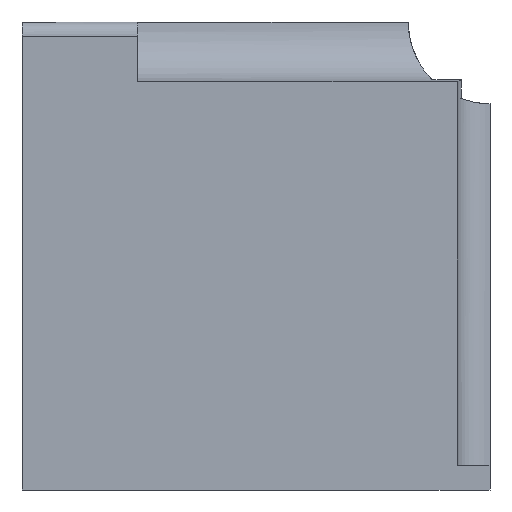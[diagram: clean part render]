
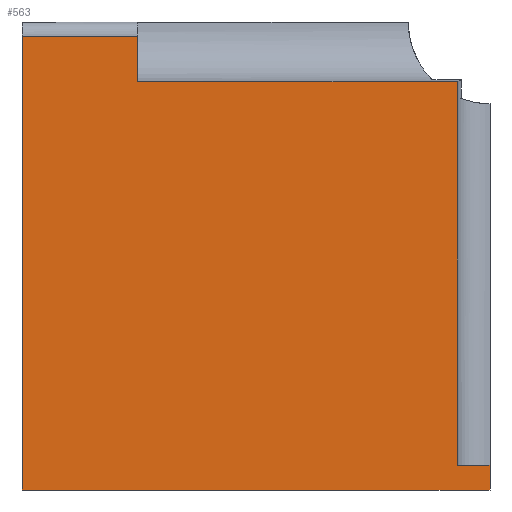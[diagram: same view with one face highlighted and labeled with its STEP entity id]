
A CAD part, front view. The second image highlights one B-rep face of the part: STEP entity #563.
In plain terms, the highlighted planar face has unit normal (0, -1, 0).
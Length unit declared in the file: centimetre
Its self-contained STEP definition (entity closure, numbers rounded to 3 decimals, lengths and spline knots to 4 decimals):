
#2 = CARTESIAN_POINT ( 'NONE',  ( 0., 0., 969.5138 ) ) ;
#4 = VECTOR ( 'NONE', #511, 100. ) ;
#17 = FACE_OUTER_BOUND ( 'NONE', #622, .T. ) ;
#65 = VERTEX_POINT ( 'NONE', #936 ) ;
#83 = LINE ( 'NONE', #675, #712 ) ;
#93 = LINE ( 'NONE', #441, #376 ) ;
#100 = LINE ( 'NONE', #246, #459 ) ;
#156 = ORIENTED_EDGE ( 'NONE', *, *, #298, .T. ) ;
#242 = DIRECTION ( 'NONE',  ( 0., 0., -1. ) ) ;
#246 = CARTESIAN_POINT ( 'NONE',  ( 0., 0., 0. ) ) ;
#260 = EDGE_CURVE ( 'NONE', #767, #403, #292, .T. ) ;
#269 = DIRECTION ( 'NONE',  ( 0., 0., 1. ) ) ;
#292 = LINE ( 'NONE', #628, #525 ) ;
#298 = EDGE_CURVE ( 'NONE', #888, #987, #753, .T. ) ;
#300 = CARTESIAN_POINT ( 'NONE',  ( 1000., 0., 0. ) ) ;
#334 = CARTESIAN_POINT ( 'NONE',  ( 247.296, 0., 1000. ) ) ;
#357 = DIRECTION ( 'NONE',  ( -1., 0., 0. ) ) ;
#376 = VECTOR ( 'NONE', #357, 100. ) ;
#382 = DIRECTION ( 'NONE',  ( 0., 1., 0. ) ) ;
#385 = EDGE_CURVE ( 'NONE', #999, #65, #491, .T. ) ;
#387 = EDGE_CURVE ( 'NONE', #403, #652, #83, .T. ) ;
#403 = VERTEX_POINT ( 'NONE', #917 ) ;
#412 = CARTESIAN_POINT ( 'NONE',  ( 247.296, 0., 872.4725 ) ) ;
#422 = VECTOR ( 'NONE', #242, 100. ) ;
#441 = CARTESIAN_POINT ( 'NONE',  ( 0., 0., 969.5138 ) ) ;
#453 = ORIENTED_EDGE ( 'NONE', *, *, #1038, .T. ) ;
#459 = VECTOR ( 'NONE', #679, 100. ) ;
#463 = CARTESIAN_POINT ( 'NONE',  ( 247.296, 0., 969.5138 ) ) ;
#491 = LINE ( 'NONE', #412, #846 ) ;
#506 = CARTESIAN_POINT ( 'NONE',  ( 0., 0., 0. ) ) ;
#511 = DIRECTION ( 'NONE',  ( 0., 0., -1. ) ) ;
#525 = VECTOR ( 'NONE', #954, 100. ) ;
#526 = ORIENTED_EDGE ( 'NONE', *, *, #880, .F. ) ;
#530 = VECTOR ( 'NONE', #867, 100. ) ;
#541 = EDGE_CURVE ( 'NONE', #767, #999, #626, .T. ) ;
#563 = ADVANCED_FACE ( 'NONE', ( #17 ), #631, .F. ) ;
#582 = CARTESIAN_POINT ( 'NONE',  ( 929.8505, 0., 872.4725 ) ) ;
#589 = DIRECTION ( 'NONE',  ( 0., 0., -1. ) ) ;
#622 = EDGE_LOOP ( 'NONE', ( #976, #907, #526, #453, #156, #726, #658, #772 ) ) ;
#626 = LINE ( 'NONE', #847, #530 ) ;
#628 = CARTESIAN_POINT ( 'NONE',  ( 0., 0., 52.6379 ) ) ;
#631 = PLANE ( 'NONE',  #708 ) ;
#652 = VERTEX_POINT ( 'NONE', #300 ) ;
#658 = ORIENTED_EDGE ( 'NONE', *, *, #387, .F. ) ;
#675 = CARTESIAN_POINT ( 'NONE',  ( 1000., 0., 1000. ) ) ;
#679 = DIRECTION ( 'NONE',  ( 1., 0., 0. ) ) ;
#708 = AXIS2_PLACEMENT_3D ( 'NONE', #1011, #382, #269 ) ;
#712 = VECTOR ( 'NONE', #589, 100. ) ;
#726 = ORIENTED_EDGE ( 'NONE', *, *, #864, .T. ) ;
#741 = CARTESIAN_POINT ( 'NONE',  ( 0., 0., 1000. ) ) ;
#753 = LINE ( 'NONE', #741, #422 ) ;
#760 = VERTEX_POINT ( 'NONE', #463 ) ;
#767 = VERTEX_POINT ( 'NONE', #895 ) ;
#772 = ORIENTED_EDGE ( 'NONE', *, *, #260, .F. ) ;
#846 = VECTOR ( 'NONE', #897, 100. ) ;
#847 = CARTESIAN_POINT ( 'NONE',  ( 929.8505, 0., 52.6379 ) ) ;
#864 = EDGE_CURVE ( 'NONE', #987, #652, #100, .T. ) ;
#867 = DIRECTION ( 'NONE',  ( 0., 0., 1. ) ) ;
#880 = EDGE_CURVE ( 'NONE', #760, #65, #922, .T. ) ;
#888 = VERTEX_POINT ( 'NONE', #2 ) ;
#895 = CARTESIAN_POINT ( 'NONE',  ( 929.8505, 0., 52.6379 ) ) ;
#897 = DIRECTION ( 'NONE',  ( -1., 0., 0. ) ) ;
#907 = ORIENTED_EDGE ( 'NONE', *, *, #385, .T. ) ;
#917 = CARTESIAN_POINT ( 'NONE',  ( 1000., 0., 52.6379 ) ) ;
#922 = LINE ( 'NONE', #334, #4 ) ;
#936 = CARTESIAN_POINT ( 'NONE',  ( 247.296, 0., 872.4725 ) ) ;
#954 = DIRECTION ( 'NONE',  ( 1., 0., 0. ) ) ;
#976 = ORIENTED_EDGE ( 'NONE', *, *, #541, .T. ) ;
#987 = VERTEX_POINT ( 'NONE', #506 ) ;
#999 = VERTEX_POINT ( 'NONE', #582 ) ;
#1011 = CARTESIAN_POINT ( 'NONE',  ( 0., 0., 1000. ) ) ;
#1038 = EDGE_CURVE ( 'NONE', #760, #888, #93, .T. ) ;
